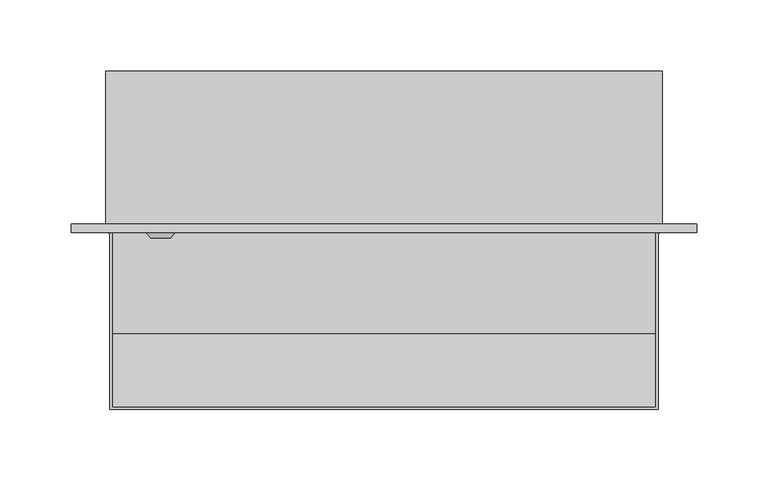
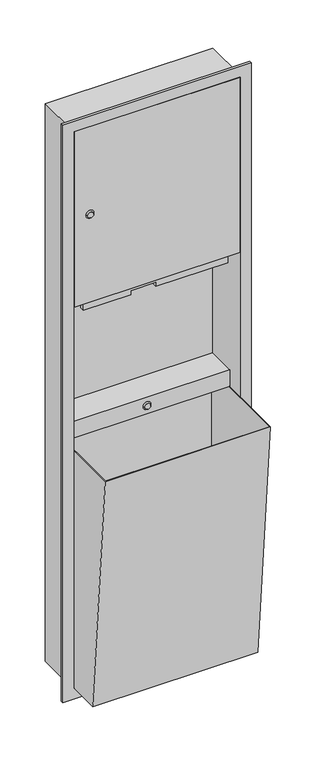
"""IFC4 building model written with IfcOpenShell, lengths in millimetres: proxy geometry, Paper Dispenser and Waste_Metlam_Recessed_49L Waste : 438w x 237d x 1420h (ML705_RECMK2)."""

from ifc_helpers import new_model, si_unit, frame, origin, place, context, project, spatial, polyline, circle_curve, outline, extrude, faceted_brep, source, transform, mapped, element, save
from ifc_brep_helpers import plane_surface, revolved_surface, advanced_brep


def specialty_equipment_59e30456(model_context):
    return source(origin(), model_context, "Body", "SolidModel", [
        extrude(outline(polyline([(193.0, -113.0), (-193.0, -113.0), (-193.0, -107.0), (193.0, -107.0), (193.0, -113.0)])), frame((0.0, 0.0, 1363.0), z_axis=(0.0, 0.0, 1.0), x_axis=(1.0, 0.0, 0.0)), (0.0, 0.0, 1.0), 431.0),
        extrude(outline(polyline([(1343.0, -168.0), (1343.0, -58.0), (1353.0, -58.0), (1353.0, 0.0), (1343.0, 0.0), (1343.0, 168.0), (1363.0, 168.0), (1363.0, -168.0), (1343.0, -168.0)])), frame((0.0, -107.0, 0.0), z_axis=(0.0, 1.0, 0.0), x_axis=(0.0, 0.0, 1.0)), (0.0, 0.0, 1.0), 10.0),
        faceted_brep([(-192.0, 0.0, 1009.0), (-192.0, -237.0, 1009.0), (192.0, -237.0, 1009.0), (192.0, 0.0, 1009.0), (-190.0, -2.0, 1009.0), (190.0, -2.0, 1009.0), (190.0, -235.0, 1009.0), (-190.0, -235.0, 1009.0), (-192.0, 0.0, 424.0), (192.0, 0.0, 424.0), (192.0, -185.8191318, 424.0), (-192.0, -185.8191318, 424.0), (190.0, -2.0, 426.0), (-190.0, -2.0, 426.0), (-190.0, -183.8191318, 426.0), (190.0, -183.8191318, 426.0)], [[[0, 1, 2, 3], [4, 5, 6, 7]], [[8, 9, 10, 11]], [[1, 0, 8, 11]], [[2, 1, 11, 10]], [[3, 2, 10, 9]], [[0, 3, 9, 8]], [[12, 13, 14, 15]], [[13, 12, 5, 4]], [[14, 13, 4, 7]], [[15, 14, 7, 6]], [[12, 15, 6, 5]]]),
        faceted_brep([(219.0, -113.0, 1820.0), (-219.0, -113.0, 1820.0), (-219.0, -113.0, 400.0), (219.0, -113.0, 400.0), (-193.0, -113.0, 1794.0), (193.0, -113.0, 1794.0), (193.0, -113.0, 426.0), (190.0, -113.0, 426.0), (-190.0, -113.0, 426.0), (-193.0, -113.0, 426.0), (-195.0, 0.0, 1796.0), (195.0, 0.0, 1796.0), (195.0, 0.0, 424.0), (-195.0, 0.0, 424.0), (-195.0, -2.0, 424.0), (-195.0, -107.0, 424.0), (-195.0, -107.0, 1796.0), (-195.0, -2.0, 1796.0), (195.0, -2.0, 424.0), (195.0, -107.0, 424.0), (195.0, -2.0, 1796.0), (195.0, -107.0, 1796.0), (-193.0, -2.0, 1794.0), (193.0, -2.0, 1794.0), (193.0, -2.0, 1049.0), (193.0, -72.0, 1049.0), (193.0, -72.0, 1009.0), (193.0, -2.0, 1009.0), (193.0, -2.0, 426.0), (190.0, -2.0, 426.0), (-190.0, -2.0, 426.0), (-193.0, -2.0, 426.0), (-193.0, -2.0, 1009.0), (-193.0, -72.0, 1009.0), (-193.0, -72.0, 1049.0), (-193.0, -2.0, 1049.0), (219.0, -107.0, 1820.0), (219.0, -107.0, 400.0), (-219.0, -107.0, 400.0), (-219.0, -107.0, 1820.0)], [[[0, 1, 2, 3], [4, 5, 6, 7, 8, 9]], [[10, 11, 12, 13]], [[10, 13, 14, 15, 16, 17]], [[13, 12, 18, 19, 15, 14]], [[12, 11, 20, 21, 19, 18]], [[11, 10, 17, 16, 21, 20]], [[5, 4, 22, 23]], [[6, 5, 23, 24, 25, 26, 27, 28]], [[6, 28, 29, 30, 31, 9, 8, 7]], [[4, 9, 31, 32, 33, 34, 35, 22]], [[23, 22, 35, 24]], [[31, 30, 29, 28, 27, 32]], [[36, 37, 38, 39], [16, 15, 19, 21]], [[1, 0, 36, 39]], [[2, 1, 39, 38]], [[3, 2, 38, 37]], [[0, 3, 37, 36]], [[33, 26, 25, 34]], [[26, 33, 32, 27]], [[34, 25, 24, 35]]]),
        advanced_brep(
        [(-7.0, -76.0, 1029.0), (7.0, -76.0, 1029.0), (-10.0, -72.0, 1029.0), (10.0, -72.0, 1029.0)],
        [
            (0, 1, circle_curve(frame((0.0, -76.0, 1029.0), z_axis=(0.0, -1.0, 0.0), x_axis=(-1.0, 0.0, 0.0)), 7.0)),
            (1, 0, circle_curve(frame((0.0, -76.0, 1029.0), z_axis=(0.0, -1.0, 0.0), x_axis=(1.0, 0.0, 0.0)), 7.0)),
            (2, 3, circle_curve(frame((0.0, -72.0, 1029.0), z_axis=(0.0, 1.0, 0.0), x_axis=(1.0, 0.0, 0.0)), 10.0)),
            (3, 2, circle_curve(frame((0.0, -72.0, 1029.0), z_axis=(0.0, 1.0, 0.0), x_axis=(-1.0, 0.0, 0.0)), 10.0)),
            (3, 1),
            (0, 2),
        ],
        [
            plane_surface(frame((0.0, -76.0, 1029.0), z_axis=(0.0, -1.0, 0.0), x_axis=(0.0, 0.0, -1.0))),
            plane_surface(frame((0.0, -72.0, 1029.0), z_axis=(0.0, 1.0, 0.0), x_axis=(0.0, 0.0, -1.0))),
            revolved_surface(polyline([(-6.999999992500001, -76.0, 1029.0), (-10.0, -72.0, 1029.0)]), (0.0, -85.3333333, 1029.0), (0.0, 1.0, 0.0)),
            revolved_surface(polyline([(6.999999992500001, -76.0, 1029.0), (10.0, -72.0, 1029.0)]), (0.0, -85.3333333, 1029.0), (0.0, 1.0, 0.0)),
        ],
        [
            (0, [[1, 2]]),
            (1, [[3, 4]]),
            (2, [[-4, 5, -1, 6]]),
            (3, [[-3, -6, -2, -5]]),
        ],
    ),
        advanced_brep(
        [(-163.489541, -117.0, 1579.5), (-149.489541, -117.0, 1579.5), (-166.489541, -113.0, 1579.5), (-146.489541, -113.0, 1579.5)],
        [
            (0, 1, circle_curve(frame((-156.489541, -117.0, 1579.5), z_axis=(0.0, -1.0, 0.0), x_axis=(-1.0, 0.0, 0.0)), 7.0)),
            (1, 0, circle_curve(frame((-156.489541, -117.0, 1579.5), z_axis=(0.0, -1.0, 0.0), x_axis=(1.0, 0.0, 0.0)), 7.0)),
            (2, 3, circle_curve(frame((-156.489541, -113.0, 1579.5), z_axis=(0.0, 1.0, 0.0), x_axis=(1.0, 0.0, 0.0)), 10.0)),
            (3, 2, circle_curve(frame((-156.489541, -113.0, 1579.5), z_axis=(0.0, 1.0, 0.0), x_axis=(-1.0, 0.0, 0.0)), 10.0)),
            (3, 1),
            (0, 2),
        ],
        [
            plane_surface(frame((-156.489541, -117.0, 1579.5), z_axis=(0.0, -1.0, 0.0), x_axis=(0.0, 0.0, -1.0))),
            plane_surface(frame((-156.489541, -113.0, 1579.5), z_axis=(0.0, 1.0, 0.0), x_axis=(0.0, 0.0, -1.0))),
            revolved_surface(polyline([(-163.4895409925, -117.0, 1579.5), (-166.489541, -113.0, 1579.5)]), (-156.489541, -126.3333333, 1579.5), (0.0, 1.0, 0.0)),
            revolved_surface(polyline([(-149.4895410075, -117.0, 1579.5), (-146.489541, -113.0, 1579.5)]), (-156.489541, -126.3333333, 1579.5), (0.0, 1.0, 0.0)),
        ],
        [
            (0, [[1, 2]]),
            (1, [[3, 4]]),
            (2, [[-4, 5, -1, 6]]),
            (3, [[-3, -6, -2, -5]]),
        ],
    ),
    ])


if __name__ == "__main__":
    model = new_model("IFC4")
    model_context = context("Model", 3, world=origin())
    ifc_project = project(units=[si_unit("LENGTHUNIT", "METRE", prefix="MILLI")], contexts=[model_context])
    site = spatial("IfcSite", under=ifc_project)
    building = spatial("IfcBuilding", under=site)
    placement = place(None, origin())
    specialty_equipment_shape = specialty_equipment_59e30456(model_context)
    element("IfcBuildingElementProxy", 1, Name="Paper Dispenser and Waste_Metlam_Recessed_49L Waste : 438w x 237d x 1420h (ML705_RECMK2)", ObjectType="Paper Dispenser and Waste_Metlam_Recessed_49L Waste : 438w x 237d x 1420h (ML705_RECMK2)", at=placement, inside=building, context=model_context, shape_type="MappedRepresentation", body=[
        mapped(specialty_equipment_shape, transform((0.0, 0.0, 0.0), x_axis=(1.0, 0.0, 0.0), y_axis=(0.0, 1.0, 0.0), z_axis=(0.0, 0.0, 1.0))),
    ])
    save(model, "model.ifc")
